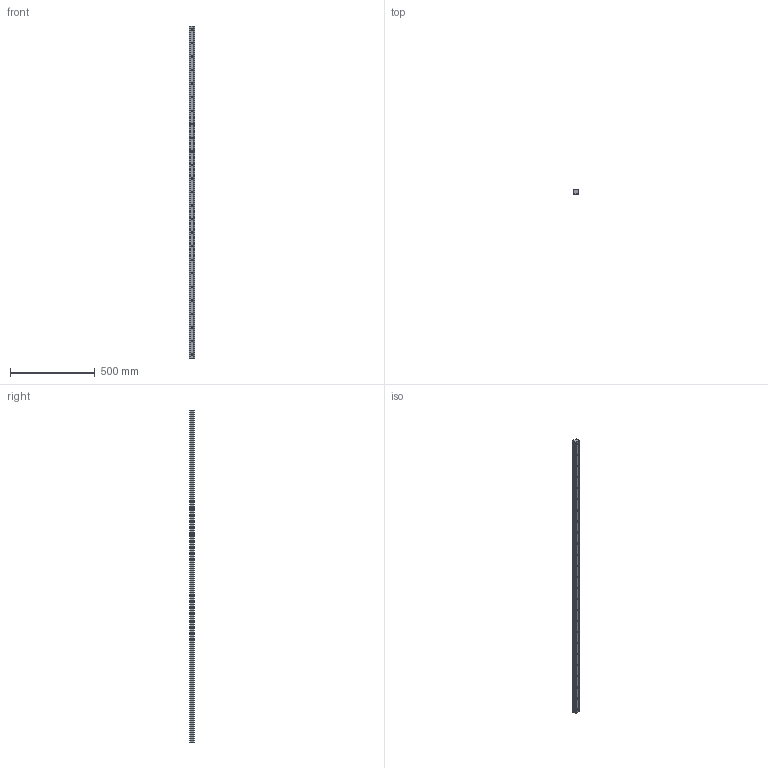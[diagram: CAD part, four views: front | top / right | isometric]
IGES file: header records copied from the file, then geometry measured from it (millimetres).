
Start section: SolidWorks IGES file using analytic representation for surfaces
Global section: file name: C:\Users\IanO\Desktop\Temp File\GENERAL\L1016_v2\L1016.RF35_v2\L1016.RF35_v2_20190612_IGES\L1016.RF35-1960.igs; native system: SolidWorks 2017; preprocessor: SolidWorks 2017; author: IanO; date: 190613.172909; units: millimetre
Bounding box: 34 x 26 x 1960 mm (x, y, z)
Surface area: 255933.3 mm2 (no closed solid volume)
Topology: 0 solids, 0 shells, 201 faces, 3168 edges, 3118 vertices
Faces by surface type: revolution 154, bspline 47
